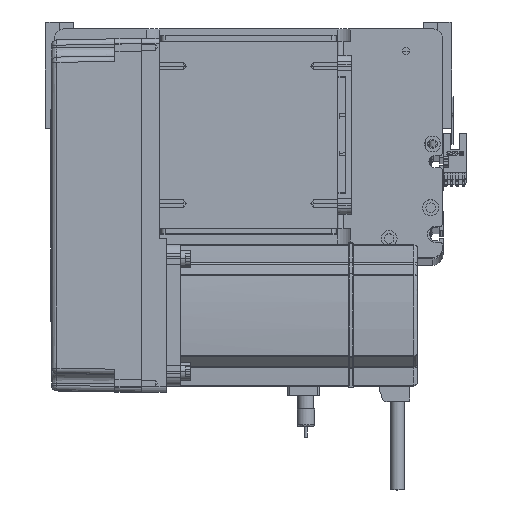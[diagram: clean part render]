
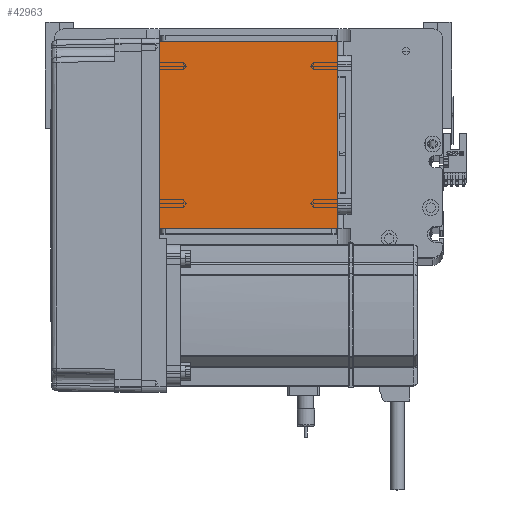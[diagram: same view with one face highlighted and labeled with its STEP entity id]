
A CAD part, top view. The second image highlights one B-rep face of the part: STEP entity #42963.
In plain terms, the highlighted planar face has unit normal (0, 0, 1).
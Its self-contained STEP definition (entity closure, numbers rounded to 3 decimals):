
#767 = VERTEX_POINT ( 'NONE', #39103 ) ;
#1408 = CARTESIAN_POINT ( 'NONE',  ( 50.5, 122., 115. ) ) ;
#3005 = VECTOR ( 'NONE', #24312, 1000. ) ;
#4190 = DIRECTION ( 'NONE',  ( 0., 1., 0. ) ) ;
#5107 = VERTEX_POINT ( 'NONE', #17697 ) ;
#7652 = EDGE_LOOP ( 'NONE', ( #25678, #29530, #34113, #33620 ) ) ;
#10889 = CARTESIAN_POINT ( 'NONE',  ( 0., 0., 115. ) ) ;
#17504 = DIRECTION ( 'NONE',  ( 0., -1., 0. ) ) ;
#17697 = CARTESIAN_POINT ( 'NONE',  ( 50.5, 16., 115. ) ) ;
#18752 = DIRECTION ( 'NONE',  ( 1., 0., 0. ) ) ;
#19520 = VECTOR ( 'NONE', #22142, 1000. ) ;
#20788 = FACE_OUTER_BOUND ( 'NONE', #7652, .T. ) ;
#20831 = LINE ( 'NONE', #43139, #27521 ) ;
#22142 = DIRECTION ( 'NONE',  ( 1., 0., 0. ) ) ;
#24169 = VECTOR ( 'NONE', #4190, 1000. ) ;
#24312 = DIRECTION ( 'NONE',  ( -1., 0., 0. ) ) ;
#24988 = EDGE_CURVE ( 'NONE', #39113, #767, #20831, .T. ) ;
#25678 = ORIENTED_EDGE ( 'NONE', *, *, #24988, .T. ) ;
#26178 = AXIS2_PLACEMENT_3D ( 'NONE', #10889, #36169, #18752 ) ;
#26440 = CARTESIAN_POINT ( 'NONE',  ( -50.5, 16., 115. ) ) ;
#27521 = VECTOR ( 'NONE', #17504, 1000. ) ;
#28202 = EDGE_CURVE ( 'NONE', #42169, #39113, #39865, .T. ) ;
#29530 = ORIENTED_EDGE ( 'NONE', *, *, #36660, .T. ) ;
#33620 = ORIENTED_EDGE ( 'NONE', *, *, #28202, .T. ) ;
#34113 = ORIENTED_EDGE ( 'NONE', *, *, #34164, .T. ) ;
#34164 = EDGE_CURVE ( 'NONE', #5107, #42169, #54282, .T. ) ;
#36169 = DIRECTION ( 'NONE',  ( 0., 0., 1. ) ) ;
#36553 = PLANE ( 'NONE',  #26178 ) ;
#36660 = EDGE_CURVE ( 'NONE', #767, #5107, #50332, .T. ) ;
#39103 = CARTESIAN_POINT ( 'NONE',  ( -50.5, 16., 115. ) ) ;
#39113 = VERTEX_POINT ( 'NONE', #54645 ) ;
#39865 = LINE ( 'NONE', #45097, #3005 ) ;
#42169 = VERTEX_POINT ( 'NONE', #1408 ) ;
#42963 = ADVANCED_FACE ( 'NONE', ( #20788 ), #36553, .T. ) ;
#43139 = CARTESIAN_POINT ( 'NONE',  ( -50.5, 122., 115. ) ) ;
#45097 = CARTESIAN_POINT ( 'NONE',  ( -50.5, 122., 115. ) ) ;
#50332 = LINE ( 'NONE', #26440, #19520 ) ;
#54282 = LINE ( 'NONE', #55303, #24169 ) ;
#54645 = CARTESIAN_POINT ( 'NONE',  ( -50.5, 122., 115. ) ) ;
#55303 = CARTESIAN_POINT ( 'NONE',  ( 50.5, 122., 115. ) ) ;
